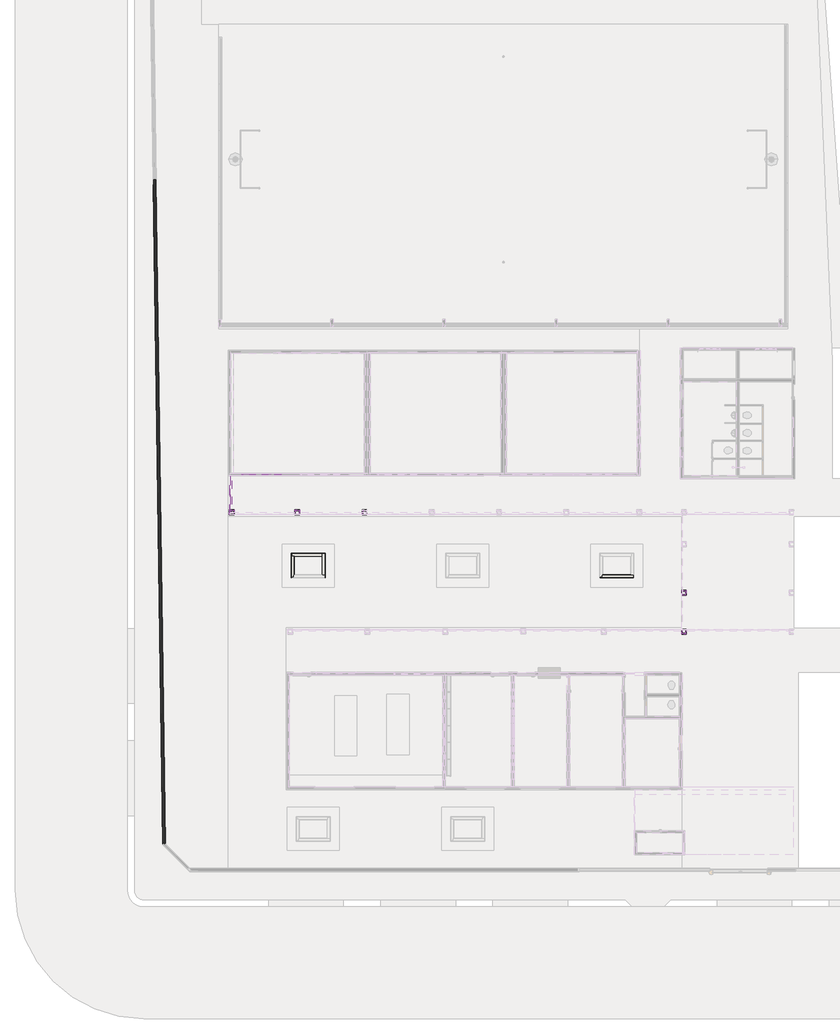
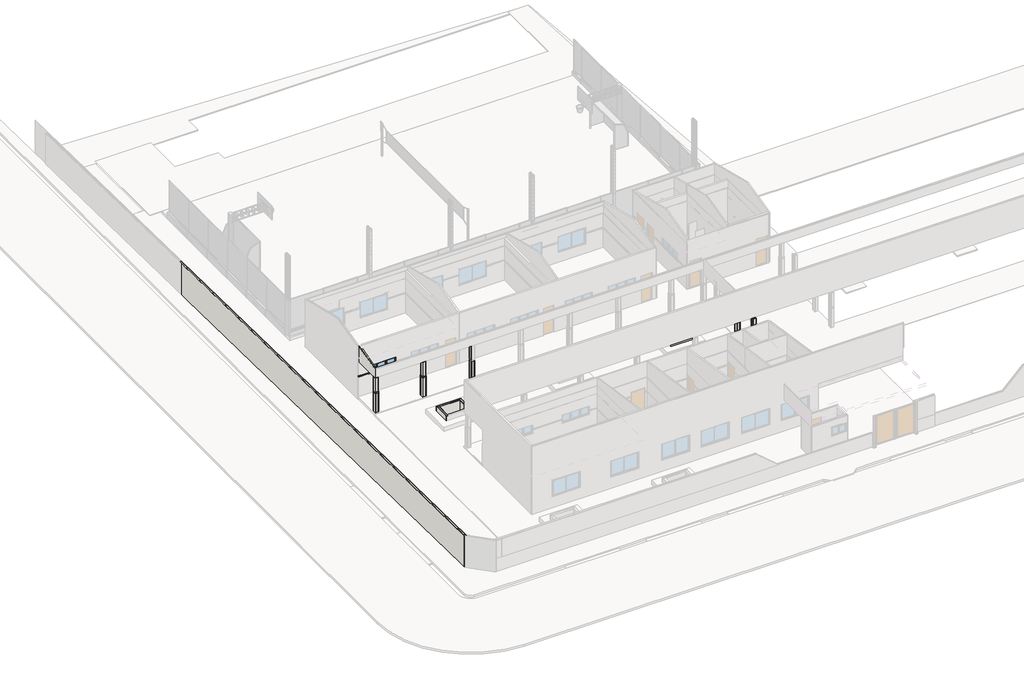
# One storey, part 6 of 28: 73 walls, 1 window.
"""IFC4 building model written with IfcOpenShell, lengths in millimetres."""

from ifc_helpers import new_model, si_unit, frame, origin, origin_with_axes, place, context, project, spatial, polyline, outline, extrude, faceted_brep, transform, mapped, element, save
from components import window_2x60x220_bcaba8dd

model = new_model("IFC4")

# Units and contexts
model_context = context("Model", 3, world=origin())
ifc_project = project(units=[si_unit("LENGTHUNIT", "METRE", prefix="MILLI")], contexts=[model_context])

# Site, building, storey
site = spatial("IfcSite", under=ifc_project)
building = spatial("IfcBuilding", under=site)
storey = spatial("IfcBuildingStorey", under=building, Name="Térreo", Elevation=0.0)

# Walls
placement = place(None, origin())
element("IfcWall", 1, ObjectType="FDE_S712_AlvenariadeTijoloCerâmico/Baiano_Alvenaria_9cm - Existente", at=placement, inside=storey, context=model_context, shape_type="Brep", body=[
    faceted_brep([(-61645.7047703, 1496.9920824, 0.0), (-62149.3783119, 37041.0478628, 0.0), (-62149.3783119, 37041.0478628, 2545.9092161), (-61645.7047703, 1496.9920824, 2545.9092161), (-61737.0076037, 1588.2949157, 0.0), (-61737.0076037, 1588.2949157, 2545.9092161), (-62239.3692773, 37039.7726547, 2545.9092161), (-62239.3692773, 37039.7726547, 0.0), (-61708.9096122, 1560.1969243, 0.0), (-62149.987548, 37041.0392297, 0.0), (-62149.987548, 37041.0392297, 2545.9092161), (-61708.9096122, 1560.1969243, 2545.9092161)], [[[0, 1, 2, 3]], [[4, 5, 6, 7]], [[1, 0, 8, 4, 7, 9]], [[2, 1, 9, 7, 6, 10]], [[3, 2, 10, 6, 5, 11]], [[0, 3, 11, 5, 4, 8]]]),
])
element("IfcWall", 2, ObjectType="FDE_S712_AlvenariadeTijoloCerâmico/Baiano_Alvenaria_9cm - Existente", at=placement, inside=storey, context=model_context, shape_type="SweptSolid", body=[
    extrude(outline(polyline([(-62118.7692456, 37041.4779083), (-61617.6144942, 1468.9018063), (-61645.7047703, 1496.9920824), (-62149.3782952, 37041.0466809), (-62118.7692456, 37041.4779083)])), origin_with_axes(), (0.0, 0.0, 1.0), 2545.9092161),
])
element("IfcWall", 3, ObjectType="Pardes Externas_Pintura Acrílica Branco Neve", at=placement, inside=storey, context=model_context, shape_type="SweptSolid", body=[
    extrude(outline(polyline([(-62235.5440837, 36769.8301548), (-61735.1780809, 1459.1861724), (-61756.4820754, 1480.4901668), (-62256.5419756, 36769.5326062), (-62235.5440837, 36769.8301548)])), origin_with_axes(), (0.0, 0.0, 1.0), 2545.9092161),
])
element("IfcWall", 4, ObjectType="Faixa - Revestimento Cerâmico Verde Folha 10x10cm", at=placement, inside=storey, context=model_context, shape_type="Brep", body=[
    faceted_brep([(-58220.0, 21180.0, 1824.9435125), (-58220.0, 21180.0, 1731.0528047), (-57485.0, 21180.0, 1731.0528047), (-57485.0, 21180.0, 1824.9435125), (-58220.0, 21210.0, 1731.0528047), (-58220.0, 21210.0, 1824.9435125), (-57485.0, 21210.0, 1824.9435125), (-57485.0, 21210.0, 1731.0528047), (-58220.0, 21189.0, 1824.9435125)], [[[0, 1, 2, 3]], [[4, 5, 6, 7]], [[1, 4, 7, 2]], [[5, 8, 0, 3, 6]], [[1, 0, 8, 5, 4]], [[3, 2, 7, 6]]]),
])
element("IfcWall", 5, ObjectType="Pardes Externas_Pintura Acrílica Branco Neve", at=placement, inside=storey, context=model_context, shape_type="Brep", body=[
    faceted_brep([(-33974.4091269, 12950.0, 2900.0), (-33974.4091269, 12950.0, 1794.0), (-33953.4091269, 12950.0, 1794.0), (-33753.4091269, 12950.0, 1794.0), (-33732.4091269, 12950.0, 1794.0), (-33732.4091269, 12950.0, 2900.0), (-33753.4091269, 12950.0, 2900.0), (-33953.4091269, 12950.0, 2900.0), (-33974.4091269, 12971.0, 1794.0), (-33974.4091269, 12971.0, 2530.0), (-33974.4091269, 12971.0, 2900.0), (-33954.4091269, 12971.0, 2900.0), (-33732.4091269, 12971.0, 2900.0), (-33732.4091269, 12971.0, 1794.0)], [[[0, 1, 2, 3, 4, 5, 6, 7]], [[8, 9, 10, 11, 12, 13]], [[4, 3, 2, 1, 8, 13]], [[0, 7, 6, 5, 12, 11, 10]], [[5, 4, 13, 12]], [[0, 10, 9, 8, 1]]]),
])
element("IfcWall", 6, ObjectType="Revestimento Cerâmico 10x10cm", at=placement, inside=storey, context=model_context, shape_type="Brep", body=[
    faceted_brep([(-33983.4091269, 12950.0, 194.0), (-33953.4091269, 12950.0, 194.0), (-33753.4091269, 12950.0, 194.0), (-33723.4091269, 12950.0, 194.0), (-33723.4091269, 12950.0, 1694.0), (-33753.4091269, 12950.0, 1694.0), (-33953.4091269, 12950.0, 1694.0), (-33983.4091269, 12950.0, 1694.0), (-33983.4091269, 12980.0, 194.0), (-33983.4091269, 12980.0, 1694.0), (-33723.4091269, 12980.0, 1694.0), (-33723.4091269, 12980.0, 194.0)], [[[0, 1, 2, 3, 4, 5, 6, 7]], [[8, 9, 10, 11]], [[3, 2, 1, 0, 8, 11]], [[7, 6, 5, 4, 10, 9]], [[0, 7, 9, 8]], [[4, 3, 11, 10]]]),
])
element("IfcWall", 7, ObjectType="Revestimento Cerâmico 10x10cm", at=placement, inside=storey, context=model_context, shape_type="Brep", body=[
    faceted_brep([(-33953.4091269, 12720.0, 194.0), (-33953.4091269, 12750.0, 194.0), (-33953.4091269, 12950.0, 194.0), (-33953.4091269, 12950.0, 1694.0), (-33953.4091269, 12750.0, 1694.0), (-33953.4091269, 12720.0, 1694.0), (-33983.4091269, 12720.0, 194.0), (-33983.4091269, 12720.0, 1694.0), (-33983.4091269, 12950.0, 1694.0), (-33983.4091269, 12950.0, 194.0)], [[[0, 1, 2, 3, 4, 5]], [[6, 7, 8, 9]], [[2, 1, 0, 6, 9]], [[5, 4, 3, 8, 7]], [[3, 2, 9, 8]], [[0, 5, 7, 6]]]),
])
element("IfcWall", 8, ObjectType="Revestimento Cerâmico 10x10cm", at=placement, inside=storey, context=model_context, shape_type="Brep", body=[
    faceted_brep([(-33753.4091269, 12950.0, 194.0), (-33753.4091269, 12750.0, 194.0), (-33753.4091269, 12720.0, 194.0), (-33753.4091269, 12720.0, 1694.0), (-33753.4091269, 12750.0, 1694.0), (-33753.4091269, 12950.0, 1694.0), (-33723.4091269, 12950.0, 194.0), (-33723.4091269, 12950.0, 1694.0), (-33723.4091269, 12720.0, 1694.0), (-33723.4091269, 12720.0, 194.0)], [[[0, 1, 2, 3, 4, 5]], [[6, 7, 8, 9]], [[2, 1, 0, 6, 9]], [[5, 4, 3, 8, 7]], [[0, 5, 7, 6]], [[3, 2, 9, 8]]]),
])
element("IfcWall", 9, ObjectType="Revestimento Cerâmico 10x10cm", at=placement, inside=storey, context=model_context, shape_type="SweptSolid", body=[
    extrude(outline(polyline([(-33753.4091269, 12720.0), (-33953.4091269, 12720.0), (-33953.4091269, 12750.0), (-33753.4091269, 12750.0), (-33753.4091269, 12720.0)])), frame((0.0, 0.0, 194.0), z_axis=(0.0, 0.0, 1.0), x_axis=(1.0, 0.0, 0.0)), (0.0, 0.0, 1.0), 1500.0),
])
element("IfcWall", 10, ObjectType="Faixa - Revestimento Cerâmico Verde Folha 10x10cm", at=placement, inside=storey, context=model_context, shape_type="Brep", body=[
    faceted_brep([(-33983.4091269, 12950.0, 1694.0), (-33953.4091269, 12950.0, 1694.0), (-33753.4091269, 12950.0, 1694.0), (-33723.4091269, 12950.0, 1694.0), (-33723.4091269, 12950.0, 1794.0), (-33753.4091269, 12950.0, 1794.0), (-33953.4091269, 12950.0, 1794.0), (-33983.4091269, 12950.0, 1794.0), (-33983.4091269, 12980.0, 1694.0), (-33983.4091269, 12980.0, 1794.0), (-33723.4091269, 12980.0, 1794.0), (-33723.4091269, 12980.0, 1694.0)], [[[0, 1, 2, 3, 4, 5, 6, 7]], [[8, 9, 10, 11]], [[3, 2, 1, 0, 8, 11]], [[7, 6, 5, 4, 10, 9]], [[4, 3, 11, 10]], [[0, 7, 9, 8]]]),
])
element("IfcWall", 11, ObjectType="Faixa - Revestimento Cerâmico Verde Folha 10x10cm", at=placement, inside=storey, context=model_context, shape_type="Brep", body=[
    faceted_brep([(-33753.4091269, 12950.0, 1694.0), (-33753.4091269, 12750.0, 1694.0), (-33753.4091269, 12720.0, 1694.0), (-33753.4091269, 12720.0, 1794.0), (-33753.4091269, 12750.0, 1794.0), (-33753.4091269, 12950.0, 1794.0), (-33723.4091269, 12950.0, 1694.0), (-33723.4091269, 12950.0, 1794.0), (-33723.4091269, 12720.0, 1794.0), (-33723.4091269, 12720.0, 1694.0)], [[[0, 1, 2, 3, 4, 5]], [[6, 7, 8, 9]], [[2, 1, 0, 6, 9]], [[5, 4, 3, 8, 7]], [[0, 5, 7, 6]], [[3, 2, 9, 8]]]),
])
element("IfcWall", 12, ObjectType="Faixa - Revestimento Cerâmico Verde Folha 10x10cm", at=placement, inside=storey, context=model_context, shape_type="Brep", body=[
    faceted_brep([(-33983.4091269, 12720.0, 1694.0), (-33753.4091269, 12720.0, 1694.0), (-33753.4091269, 12720.0, 1794.0), (-33983.4091269, 12720.0, 1794.0), (-33983.4091269, 12750.0, 1694.0), (-33983.4091269, 12750.0, 1794.0), (-33953.4091269, 12750.0, 1794.0), (-33753.4091269, 12750.0, 1794.0), (-33753.4091269, 12750.0, 1694.0), (-33953.4091269, 12750.0, 1694.0), (-33753.4091269, 12729.0, 1794.0)], [[[0, 1, 2, 3]], [[4, 5, 6, 7, 8, 9]], [[1, 0, 4, 9, 8]], [[3, 2, 10, 7, 6, 5]], [[2, 1, 8, 7, 10]], [[0, 3, 5, 4]]]),
])
element("IfcWall", 13, ObjectType="Faixa - Revestimento Cerâmico Verde Folha 10x10cm", at=placement, inside=storey, context=model_context, shape_type="SweptSolid", body=[
    extrude(outline(polyline([(-33983.4091269, 12750.0), (-33983.4091269, 12950.0), (-33953.4091269, 12950.0), (-33953.4091269, 12750.0), (-33983.4091269, 12750.0)])), frame((0.0, 0.0, 1694.0), z_axis=(0.0, 0.0, 1.0), x_axis=(1.0, 0.0, 0.0)), (0.0, 0.0, 1.0), 100.0),
])
element("IfcWall", 14, ObjectType="Pardes Externas_Pintura Acrílica Branco Neve", at=placement, inside=storey, context=model_context, shape_type="SweptSolid", body=[
    extrude(outline(polyline([(-33753.4091269, 12729.0), (-33953.4091269, 12729.0), (-33953.4091269, 12750.0), (-33753.4091269, 12750.0), (-33753.4091269, 12729.0)])), frame((0.0, 0.0, 1794.0), z_axis=(0.0, 0.0, 1.0), x_axis=(1.0, 0.0, 0.0)), (0.0, 0.0, 1.0), 1106.0),
])
element("IfcWall", 15, ObjectType="Pardes Externas_Pintura Acrílica Branco Neve", at=placement, inside=storey, context=model_context, shape_type="Brep", body=[
    faceted_brep([(-33753.4091269, 12950.0, 1794.0), (-33753.4091269, 12750.0, 1794.0), (-33753.4091269, 12729.0, 1794.0), (-33753.4091269, 12729.0, 2900.0), (-33753.4091269, 12750.0, 2900.0), (-33753.4091269, 12950.0, 2900.0), (-33732.4091269, 12950.0, 1794.0), (-33732.4091269, 12950.0, 2900.0), (-33732.4091269, 12729.0, 2900.0), (-33732.4091269, 12729.0, 1794.0)], [[[0, 1, 2, 3, 4, 5]], [[6, 7, 8, 9]], [[2, 1, 0, 6, 9]], [[5, 4, 3, 8, 7]], [[3, 2, 9, 8]], [[0, 5, 7, 6]]]),
])
element("IfcWall", 16, ObjectType="Pardes Externas_Pintura Acrílica Branco Neve", at=placement, inside=storey, context=model_context, shape_type="Brep", body=[
    faceted_brep([(-33974.4091269, 12950.0, 2900.0), (-33974.4091269, 12950.0, 1794.0), (-33974.4091269, 12729.0, 1794.0), (-33974.4091269, 12729.0, 2900.0), (-33953.4091269, 12950.0, 1794.0), (-33953.4091269, 12950.0, 2900.0), (-33953.4091269, 12750.0, 2900.0), (-33953.4091269, 12729.0, 2900.0), (-33953.4091269, 12729.0, 1794.0), (-33953.4091269, 12750.0, 1794.0)], [[[0, 1, 2, 3]], [[4, 5, 6, 7, 8, 9]], [[2, 1, 4, 9, 8]], [[0, 3, 7, 6, 5]], [[3, 2, 8, 7]], [[0, 5, 4, 1]]]),
])
element("IfcWall", 17, ObjectType="Pardes Externas_Pintura Acrílica Branco Neve", at=placement, inside=storey, context=model_context, shape_type="Brep", body=[
    faceted_brep([(-51071.0, 19330.0, 1794.0), (-51050.0, 19330.0, 1794.0), (-50850.0, 19330.0, 1794.0), (-50829.0, 19330.0, 1794.0), (-50829.0, 19330.0, 2900.0), (-50850.0, 19330.0, 2900.0), (-51050.0, 19330.0, 2900.0), (-51071.0, 19330.0, 2900.0), (-51071.0, 19351.0, 1794.0), (-51071.0, 19351.0, 2900.0), (-50829.0, 19351.0, 2900.0), (-50829.0, 19351.0, 1794.0)], [[[0, 1, 2, 3, 4, 5, 6, 7]], [[8, 9, 10, 11]], [[3, 2, 1, 0, 8, 11]], [[7, 6, 5, 4, 10, 9]], [[0, 7, 9, 8]], [[4, 3, 11, 10]]]),
])
element("IfcWall", 18, ObjectType="Revestimento Cerâmico 10x10cm", at=placement, inside=storey, context=model_context, shape_type="Brep", body=[
    faceted_brep([(-51080.0, 19330.0, 194.0), (-51050.0, 19330.0, 194.0), (-50850.0, 19330.0, 194.0), (-50820.0, 19330.0, 194.0), (-50820.0, 19330.0, 1694.0), (-50850.0, 19330.0, 1694.0), (-51050.0, 19330.0, 1694.0), (-51080.0, 19330.0, 1694.0), (-51080.0, 19360.0, 194.0), (-51080.0, 19360.0, 1694.0), (-50820.0, 19360.0, 1694.0), (-50820.0, 19360.0, 194.0)], [[[0, 1, 2, 3, 4, 5, 6, 7]], [[8, 9, 10, 11]], [[3, 2, 1, 0, 8, 11]], [[7, 6, 5, 4, 10, 9]], [[0, 7, 9, 8]], [[4, 3, 11, 10]]]),
])
element("IfcWall", 19, ObjectType="Revestimento Cerâmico 10x10cm", at=placement, inside=storey, context=model_context, shape_type="Brep", body=[
    faceted_brep([(-51050.0, 19100.0, 194.0), (-51050.0, 19130.0, 194.0), (-51050.0, 19330.0, 194.0), (-51050.0, 19330.0, 1694.0), (-51050.0, 19130.0, 1694.0), (-51050.0, 19100.0, 1694.0), (-51080.0, 19100.0, 194.0), (-51080.0, 19100.0, 1694.0), (-51080.0, 19330.0, 1694.0), (-51080.0, 19330.0, 194.0)], [[[0, 1, 2, 3, 4, 5]], [[6, 7, 8, 9]], [[2, 1, 0, 6, 9]], [[5, 4, 3, 8, 7]], [[3, 2, 9, 8]], [[0, 5, 7, 6]]]),
])
element("IfcWall", 20, ObjectType="Revestimento Cerâmico 10x10cm", at=placement, inside=storey, context=model_context, shape_type="Brep", body=[
    faceted_brep([(-50850.0, 19330.0, 194.0), (-50850.0, 19130.0, 194.0), (-50850.0, 19100.0, 194.0), (-50850.0, 19100.0, 1694.0), (-50850.0, 19130.0, 1694.0), (-50850.0, 19330.0, 1694.0), (-50820.0, 19330.0, 194.0), (-50820.0, 19330.0, 1694.0), (-50820.0, 19100.0, 1694.0), (-50820.0, 19100.0, 194.0)], [[[0, 1, 2, 3, 4, 5]], [[6, 7, 8, 9]], [[2, 1, 0, 6, 9]], [[5, 4, 3, 8, 7]], [[0, 5, 7, 6]], [[3, 2, 9, 8]]]),
])
element("IfcWall", 21, ObjectType="Revestimento Cerâmico 10x10cm", at=placement, inside=storey, context=model_context, shape_type="SweptSolid", body=[
    extrude(outline(polyline([(-50850.0, 19100.0), (-51050.0, 19100.0), (-51050.0, 19130.0), (-50850.0, 19130.0), (-50850.0, 19100.0)])), frame((0.0, 0.0, 194.0), z_axis=(0.0, 0.0, 1.0), x_axis=(1.0, 0.0, 0.0)), (0.0, 0.0, 1.0), 1500.0),
])
element("IfcWall", 22, ObjectType="Faixa - Revestimento Cerâmico Verde Folha 10x10cm", at=placement, inside=storey, context=model_context, shape_type="SweptSolid", body=[
    extrude(outline(polyline([(-51080.0, 19130.0), (-51080.0, 19330.0), (-51050.0, 19330.0), (-51050.0, 19130.0), (-51080.0, 19130.0)])), frame((0.0, 0.0, 1694.0), z_axis=(0.0, 0.0, 1.0), x_axis=(1.0, 0.0, 0.0)), (0.0, 0.0, 1.0), 100.0),
])
element("IfcWall", 23, ObjectType="Pardes Externas_Pintura Acrílica Branco Neve", at=placement, inside=storey, context=model_context, shape_type="Brep", body=[
    faceted_brep([(-51071.0, 19330.0, 1794.0), (-51071.0, 19109.0, 1794.0), (-51071.0, 19109.0, 2900.0), (-51071.0, 19330.0, 2900.0), (-51050.0, 19330.0, 1794.0), (-51050.0, 19330.0, 2900.0), (-51050.0, 19130.0, 2900.0), (-51050.0, 19109.0, 2900.0), (-51050.0, 19109.0, 1794.0), (-51050.0, 19130.0, 1794.0)], [[[0, 1, 2, 3]], [[4, 5, 6, 7, 8, 9]], [[1, 0, 4, 9, 8]], [[3, 2, 7, 6, 5]], [[2, 1, 8, 7]], [[0, 3, 5, 4]]]),
])
element("IfcWall", 24, ObjectType="Pardes Externas_Pintura Acrílica Branco Neve", at=placement, inside=storey, context=model_context, shape_type="Brep", body=[
    faceted_brep([(-54671.0, 19330.0, 1794.0), (-54650.0, 19330.0, 1794.0), (-54450.0, 19330.0, 1794.0), (-54429.0, 19330.0, 1794.0), (-54429.0, 19330.0, 2900.0), (-54450.0, 19330.0, 2900.0), (-54650.0, 19330.0, 2900.0), (-54671.0, 19330.0, 2900.0), (-54671.0, 19351.0, 1794.0), (-54671.0, 19351.0, 2900.0), (-54429.0, 19351.0, 2900.0), (-54429.0, 19351.0, 1794.0)], [[[0, 1, 2, 3, 4, 5, 6, 7]], [[8, 9, 10, 11]], [[3, 2, 1, 0, 8, 11]], [[7, 6, 5, 4, 10, 9]], [[0, 7, 9, 8]], [[4, 3, 11, 10]]]),
])
element("IfcWall", 25, ObjectType="Revestimento Cerâmico 10x10cm", at=placement, inside=storey, context=model_context, shape_type="Brep", body=[
    faceted_brep([(-54680.0, 19330.0, 194.0), (-54650.0, 19330.0, 194.0), (-54450.0, 19330.0, 194.0), (-54420.0, 19330.0, 194.0), (-54420.0, 19330.0, 1694.0), (-54450.0, 19330.0, 1694.0), (-54650.0, 19330.0, 1694.0), (-54680.0, 19330.0, 1694.0), (-54680.0, 19360.0, 194.0), (-54680.0, 19360.0, 1694.0), (-54420.0, 19360.0, 1694.0), (-54420.0, 19360.0, 194.0)], [[[0, 1, 2, 3, 4, 5, 6, 7]], [[8, 9, 10, 11]], [[3, 2, 1, 0, 8, 11]], [[7, 6, 5, 4, 10, 9]], [[0, 7, 9, 8]], [[4, 3, 11, 10]]]),
])
element("IfcWall", 26, ObjectType="Revestimento Cerâmico 10x10cm", at=placement, inside=storey, context=model_context, shape_type="Brep", body=[
    faceted_brep([(-54650.0, 19100.0, 194.0), (-54650.0, 19130.0, 194.0), (-54650.0, 19330.0, 194.0), (-54650.0, 19330.0, 1694.0), (-54650.0, 19130.0, 1694.0), (-54650.0, 19100.0, 1694.0), (-54680.0, 19100.0, 194.0), (-54680.0, 19100.0, 1694.0), (-54680.0, 19330.0, 1694.0), (-54680.0, 19330.0, 194.0)], [[[0, 1, 2, 3, 4, 5]], [[6, 7, 8, 9]], [[2, 1, 0, 6, 9]], [[5, 4, 3, 8, 7]], [[3, 2, 9, 8]], [[0, 5, 7, 6]]]),
])
element("IfcWall", 27, ObjectType="Revestimento Cerâmico 10x10cm", at=placement, inside=storey, context=model_context, shape_type="Brep", body=[
    faceted_brep([(-54450.0, 19330.0, 194.0), (-54450.0, 19130.0, 194.0), (-54450.0, 19100.0, 194.0), (-54450.0, 19100.0, 1694.0), (-54450.0, 19130.0, 1694.0), (-54450.0, 19330.0, 1694.0), (-54420.0, 19330.0, 194.0), (-54420.0, 19330.0, 1694.0), (-54420.0, 19100.0, 1694.0), (-54420.0, 19100.0, 194.0)], [[[0, 1, 2, 3, 4, 5]], [[6, 7, 8, 9]], [[2, 1, 0, 6, 9]], [[5, 4, 3, 8, 7]], [[0, 5, 7, 6]], [[3, 2, 9, 8]]]),
])
element("IfcWall", 28, ObjectType="Revestimento Cerâmico 10x10cm", at=placement, inside=storey, context=model_context, shape_type="SweptSolid", body=[
    extrude(outline(polyline([(-54450.0, 19100.0), (-54650.0, 19100.0), (-54650.0, 19130.0), (-54450.0, 19130.0), (-54450.0, 19100.0)])), frame((0.0, 0.0, 194.0), z_axis=(0.0, 0.0, 1.0), x_axis=(1.0, 0.0, 0.0)), (0.0, 0.0, 1.0), 1500.0),
])
element("IfcWall", 29, ObjectType="Faixa - Revestimento Cerâmico Verde Folha 10x10cm", at=placement, inside=storey, context=model_context, shape_type="Brep", body=[
    faceted_brep([(-54680.0, 19330.0, 1694.0), (-54650.0, 19330.0, 1694.0), (-54450.0, 19330.0, 1694.0), (-54420.0, 19330.0, 1694.0), (-54420.0, 19330.0, 1794.0), (-54450.0, 19330.0, 1794.0), (-54650.0, 19330.0, 1794.0), (-54680.0, 19330.0, 1794.0), (-54680.0, 19360.0, 1694.0), (-54680.0, 19360.0, 1794.0), (-54420.0, 19360.0, 1794.0), (-54420.0, 19360.0, 1694.0)], [[[0, 1, 2, 3, 4, 5, 6, 7]], [[8, 9, 10, 11]], [[3, 2, 1, 0, 8, 11]], [[7, 6, 5, 4, 10, 9]], [[4, 3, 11, 10]], [[0, 7, 9, 8]]]),
])
element("IfcWall", 30, ObjectType="Faixa - Revestimento Cerâmico Verde Folha 10x10cm", at=placement, inside=storey, context=model_context, shape_type="Brep", body=[
    faceted_brep([(-54450.0, 19330.0, 1694.0), (-54450.0, 19130.0, 1694.0), (-54450.0, 19100.0, 1694.0), (-54450.0, 19100.0, 1794.0), (-54450.0, 19130.0, 1794.0), (-54450.0, 19330.0, 1794.0), (-54420.0, 19330.0, 1694.0), (-54420.0, 19330.0, 1794.0), (-54420.0, 19100.0, 1794.0), (-54420.0, 19100.0, 1694.0)], [[[0, 1, 2, 3, 4, 5]], [[6, 7, 8, 9]], [[2, 1, 0, 6, 9]], [[5, 4, 3, 8, 7]], [[0, 5, 7, 6]], [[3, 2, 9, 8]]]),
])
element("IfcWall", 31, ObjectType="Faixa - Revestimento Cerâmico Verde Folha 10x10cm", at=placement, inside=storey, context=model_context, shape_type="Brep", body=[
    faceted_brep([(-54680.0, 19100.0, 1694.0), (-54450.0, 19100.0, 1694.0), (-54450.0, 19100.0, 1794.0), (-54680.0, 19100.0, 1794.0), (-54680.0, 19130.0, 1694.0), (-54680.0, 19130.0, 1794.0), (-54650.0, 19130.0, 1794.0), (-54450.0, 19130.0, 1794.0), (-54450.0, 19130.0, 1694.0), (-54650.0, 19130.0, 1694.0), (-54450.0, 19109.0, 1794.0)], [[[0, 1, 2, 3]], [[4, 5, 6, 7, 8, 9]], [[1, 0, 4, 9, 8]], [[3, 2, 10, 7, 6, 5]], [[2, 1, 8, 7, 10]], [[0, 3, 5, 4]]]),
])
element("IfcWall", 32, ObjectType="Faixa - Revestimento Cerâmico Verde Folha 10x10cm", at=placement, inside=storey, context=model_context, shape_type="SweptSolid", body=[
    extrude(outline(polyline([(-54680.0, 19130.0), (-54680.0, 19330.0), (-54650.0, 19330.0), (-54650.0, 19130.0), (-54680.0, 19130.0)])), frame((0.0, 0.0, 1694.0), z_axis=(0.0, 0.0, 1.0), x_axis=(1.0, 0.0, 0.0)), (0.0, 0.0, 1.0), 100.0),
])
element("IfcWall", 33, ObjectType="Pardes Externas_Pintura Acrílica Branco Neve", at=placement, inside=storey, context=model_context, shape_type="SweptSolid", body=[
    extrude(outline(polyline([(-54450.0, 19109.0), (-54650.0, 19109.0), (-54650.0, 19130.0), (-54450.0, 19130.0), (-54450.0, 19109.0)])), frame((0.0, 0.0, 1794.0), z_axis=(0.0, 0.0, 1.0), x_axis=(1.0, 0.0, 0.0)), (0.0, 0.0, 1.0), 1106.0),
])
element("IfcWall", 34, ObjectType="Pardes Externas_Pintura Acrílica Branco Neve", at=placement, inside=storey, context=model_context, shape_type="Brep", body=[
    faceted_brep([(-54450.0, 19330.0, 1794.0), (-54450.0, 19130.0, 1794.0), (-54450.0, 19109.0, 1794.0), (-54450.0, 19109.0, 2900.0), (-54450.0, 19130.0, 2900.0), (-54450.0, 19330.0, 2900.0), (-54429.0, 19330.0, 1794.0), (-54429.0, 19330.0, 2900.0), (-54429.0, 19109.0, 2900.0), (-54429.0, 19109.0, 1794.0)], [[[0, 1, 2, 3, 4, 5]], [[6, 7, 8, 9]], [[2, 1, 0, 6, 9]], [[5, 4, 3, 8, 7]], [[3, 2, 9, 8]], [[0, 5, 7, 6]]]),
])
element("IfcWall", 35, ObjectType="Pardes Externas_Pintura Acrílica Branco Neve", at=placement, inside=storey, context=model_context, shape_type="Brep", body=[
    faceted_brep([(-54671.0, 19330.0, 1794.0), (-54671.0, 19109.0, 1794.0), (-54671.0, 19109.0, 2900.0), (-54671.0, 19330.0, 2900.0), (-54650.0, 19330.0, 1794.0), (-54650.0, 19330.0, 2900.0), (-54650.0, 19130.0, 2900.0), (-54650.0, 19109.0, 2900.0), (-54650.0, 19109.0, 1794.0), (-54650.0, 19130.0, 1794.0)], [[[0, 1, 2, 3]], [[4, 5, 6, 7, 8, 9]], [[1, 0, 4, 9, 8]], [[3, 2, 7, 6, 5]], [[2, 1, 8, 7]], [[0, 3, 5, 4]]]),
])
element("IfcWall", 36, ObjectType="Pardes Externas_Pintura Acrílica Branco Neve", at=placement, inside=storey, context=model_context, shape_type="Brep", body=[
    faceted_brep([(-58171.0, 19330.0, 1794.0), (-58150.0, 19330.0, 1794.0), (-57950.0, 19330.0, 1794.0), (-57929.0, 19330.0, 1794.0), (-57929.0, 19330.0, 2900.0), (-57950.0, 19330.0, 2900.0), (-58150.0, 19330.0, 2900.0), (-58171.0, 19330.0, 2900.0), (-58171.0, 19351.0, 1794.0), (-58171.0, 19351.0, 2900.0), (-57929.0, 19351.0, 2900.0), (-57929.0, 19351.0, 1794.0)], [[[0, 1, 2, 3, 4, 5, 6, 7]], [[8, 9, 10, 11]], [[3, 2, 1, 0, 8, 11]], [[7, 6, 5, 4, 10, 9]], [[0, 7, 9, 8]], [[4, 3, 11, 10]]]),
])
element("IfcWall", 37, ObjectType="Revestimento Cerâmico 10x10cm", at=placement, inside=storey, context=model_context, shape_type="Brep", body=[
    faceted_brep([(-58180.0, 19330.0, 194.0), (-58150.0, 19330.0, 194.0), (-57950.0, 19330.0, 194.0), (-57920.0, 19330.0, 194.0), (-57920.0, 19330.0, 1694.0), (-57950.0, 19330.0, 1694.0), (-58150.0, 19330.0, 1694.0), (-58180.0, 19330.0, 1694.0), (-58180.0, 19360.0, 194.0), (-58180.0, 19360.0, 1694.0), (-57920.0, 19360.0, 1694.0), (-57920.0, 19360.0, 194.0)], [[[0, 1, 2, 3, 4, 5, 6, 7]], [[8, 9, 10, 11]], [[3, 2, 1, 0, 8, 11]], [[7, 6, 5, 4, 10, 9]], [[0, 7, 9, 8]], [[4, 3, 11, 10]]]),
])
element("IfcWall", 38, ObjectType="Revestimento Cerâmico 10x10cm", at=placement, inside=storey, context=model_context, shape_type="Brep", body=[
    faceted_brep([(-58150.0, 19100.0, 194.0), (-58150.0, 19130.0, 194.0), (-58150.0, 19330.0, 194.0), (-58150.0, 19330.0, 1694.0), (-58150.0, 19130.0, 1694.0), (-58150.0, 19100.0, 1694.0), (-58180.0, 19100.0, 194.0), (-58180.0, 19100.0, 1694.0), (-58180.0, 19330.0, 1694.0), (-58180.0, 19330.0, 194.0)], [[[0, 1, 2, 3, 4, 5]], [[6, 7, 8, 9]], [[2, 1, 0, 6, 9]], [[5, 4, 3, 8, 7]], [[3, 2, 9, 8]], [[0, 5, 7, 6]]]),
])
element("IfcWall", 39, ObjectType="Revestimento Cerâmico 10x10cm", at=placement, inside=storey, context=model_context, shape_type="Brep", body=[
    faceted_brep([(-57950.0, 19330.0, 194.0), (-57950.0, 19130.0, 194.0), (-57950.0, 19100.0, 194.0), (-57950.0, 19100.0, 1694.0), (-57950.0, 19130.0, 1694.0), (-57950.0, 19330.0, 1694.0), (-57920.0, 19330.0, 194.0), (-57920.0, 19330.0, 1694.0), (-57920.0, 19100.0, 1694.0), (-57920.0, 19100.0, 194.0)], [[[0, 1, 2, 3, 4, 5]], [[6, 7, 8, 9]], [[2, 1, 0, 6, 9]], [[5, 4, 3, 8, 7]], [[0, 5, 7, 6]], [[3, 2, 9, 8]]]),
])
element("IfcWall", 40, ObjectType="Revestimento Cerâmico 10x10cm", at=placement, inside=storey, context=model_context, shape_type="SweptSolid", body=[
    extrude(outline(polyline([(-57950.0, 19100.0), (-58150.0, 19100.0), (-58150.0, 19130.0), (-57950.0, 19130.0), (-57950.0, 19100.0)])), frame((0.0, 0.0, 194.0), z_axis=(0.0, 0.0, 1.0), x_axis=(1.0, 0.0, 0.0)), (0.0, 0.0, 1.0), 1500.0),
])
element("IfcWall", 41, ObjectType="Faixa - Revestimento Cerâmico Verde Folha 10x10cm", at=placement, inside=storey, context=model_context, shape_type="Brep", body=[
    faceted_brep([(-58180.0, 19330.0, 1694.0), (-58150.0, 19330.0, 1694.0), (-57950.0, 19330.0, 1694.0), (-57920.0, 19330.0, 1694.0), (-57920.0, 19330.0, 1794.0), (-57950.0, 19330.0, 1794.0), (-58150.0, 19330.0, 1794.0), (-58180.0, 19330.0, 1794.0), (-58180.0, 19360.0, 1694.0), (-58180.0, 19360.0, 1794.0), (-57920.0, 19360.0, 1794.0), (-57920.0, 19360.0, 1694.0)], [[[0, 1, 2, 3, 4, 5, 6, 7]], [[8, 9, 10, 11]], [[3, 2, 1, 0, 8, 11]], [[7, 6, 5, 4, 10, 9]], [[4, 3, 11, 10]], [[0, 7, 9, 8]]]),
])
element("IfcWall", 42, ObjectType="Faixa - Revestimento Cerâmico Verde Folha 10x10cm", at=placement, inside=storey, context=model_context, shape_type="Brep", body=[
    faceted_brep([(-57950.0, 19330.0, 1694.0), (-57950.0, 19130.0, 1694.0), (-57950.0, 19100.0, 1694.0), (-57950.0, 19100.0, 1794.0), (-57950.0, 19130.0, 1794.0), (-57950.0, 19330.0, 1794.0), (-57920.0, 19330.0, 1694.0), (-57920.0, 19330.0, 1794.0), (-57920.0, 19100.0, 1794.0), (-57920.0, 19100.0, 1694.0)], [[[0, 1, 2, 3, 4, 5]], [[6, 7, 8, 9]], [[2, 1, 0, 6, 9]], [[5, 4, 3, 8, 7]], [[0, 5, 7, 6]], [[3, 2, 9, 8]]]),
])
element("IfcWall", 43, ObjectType="Faixa - Revestimento Cerâmico Verde Folha 10x10cm", at=placement, inside=storey, context=model_context, shape_type="Brep", body=[
    faceted_brep([(-58180.0, 19100.0, 1694.0), (-57950.0, 19100.0, 1694.0), (-57950.0, 19100.0, 1794.0), (-58180.0, 19100.0, 1794.0), (-58180.0, 19130.0, 1694.0), (-58180.0, 19130.0, 1794.0), (-58150.0, 19130.0, 1794.0), (-57950.0, 19130.0, 1794.0), (-57950.0, 19130.0, 1694.0), (-58150.0, 19130.0, 1694.0), (-57950.0, 19109.0, 1794.0)], [[[0, 1, 2, 3]], [[4, 5, 6, 7, 8, 9]], [[1, 0, 4, 9, 8]], [[3, 2, 10, 7, 6, 5]], [[2, 1, 8, 7, 10]], [[0, 3, 5, 4]]]),
])
element("IfcWall", 44, ObjectType="Faixa - Revestimento Cerâmico Verde Folha 10x10cm", at=placement, inside=storey, context=model_context, shape_type="SweptSolid", body=[
    extrude(outline(polyline([(-58180.0, 19130.0), (-58180.0, 19330.0), (-58150.0, 19330.0), (-58150.0, 19130.0), (-58180.0, 19130.0)])), frame((0.0, 0.0, 1694.0), z_axis=(0.0, 0.0, 1.0), x_axis=(1.0, 0.0, 0.0)), (0.0, 0.0, 1.0), 100.0),
])
element("IfcWall", 45, ObjectType="Pardes Externas_Pintura Acrílica Branco Neve", at=placement, inside=storey, context=model_context, shape_type="SweptSolid", body=[
    extrude(outline(polyline([(-57950.0, 19109.0), (-58150.0, 19109.0), (-58150.0, 19130.0), (-57950.0, 19130.0), (-57950.0, 19109.0)])), frame((0.0, 0.0, 1794.0), z_axis=(0.0, 0.0, 1.0), x_axis=(1.0, 0.0, 0.0)), (0.0, 0.0, 1.0), 1106.0),
])
element("IfcWall", 46, ObjectType="Pardes Externas_Pintura Acrílica Branco Neve", at=placement, inside=storey, context=model_context, shape_type="Brep", body=[
    faceted_brep([(-57950.0, 19330.0, 1794.0), (-57950.0, 19130.0, 1794.0), (-57950.0, 19109.0, 1794.0), (-57950.0, 19109.0, 2900.0), (-57950.0, 19130.0, 2900.0), (-57950.0, 19330.0, 2900.0), (-57929.0, 19330.0, 1794.0), (-57929.0, 19330.0, 2900.0), (-57929.0, 19109.0, 2900.0), (-57929.0, 19109.0, 1794.0)], [[[0, 1, 2, 3, 4, 5]], [[6, 7, 8, 9]], [[2, 1, 0, 6, 9]], [[5, 4, 3, 8, 7]], [[3, 2, 9, 8]], [[0, 5, 7, 6]]]),
])
element("IfcWall", 47, ObjectType="Pardes Externas_Pintura Acrílica Branco Neve", at=placement, inside=storey, context=model_context, shape_type="Brep", body=[
    faceted_brep([(-58171.0, 19330.0, 1794.0), (-58171.0, 19109.0, 1794.0), (-58171.0, 19109.0, 2900.0), (-58171.0, 19330.0, 2900.0), (-58150.0, 19330.0, 1794.0), (-58150.0, 19330.0, 2900.0), (-58150.0, 19130.0, 2900.0), (-58150.0, 19109.0, 2900.0), (-58150.0, 19109.0, 1794.0), (-58150.0, 19130.0, 1794.0)], [[[0, 1, 2, 3]], [[4, 5, 6, 7, 8, 9]], [[1, 0, 4, 9, 8]], [[3, 2, 7, 6, 5]], [[2, 1, 8, 7]], [[0, 3, 5, 4]]]),
])
element("IfcWall", 48, ObjectType="FDE_S713_AlvenariadeTijoloLaminadoaVista_Alvenaria_1/2TijoloAlternado_11,5cm", at=placement, inside=storey, context=model_context, shape_type="Brep", body=[
    faceted_brep([(-54839.5140751, 16895.1451949, 100.0), (-54839.5140751, 15752.1451949, 100.0), (-54839.5140751, 15752.1451949, 800.0), (-54839.5140751, 16895.1451949, 800.0), (-54839.5140751, 16895.1451949, 179.0468845), (-54724.5140751, 16895.1451949, 100.0), (-54724.5140751, 16895.1451949, 800.0), (-54724.5140751, 15867.1451949, 800.0), (-54724.5140751, 15752.1451949, 800.0), (-54724.5140751, 15752.1451949, 100.0)], [[[0, 1, 2, 3, 4]], [[5, 6, 7, 8, 9]], [[1, 0, 5, 9]], [[3, 2, 8, 7, 6]], [[2, 1, 9, 8]], [[0, 4, 3, 6, 5]]]),
])
element("IfcWall", 49, ObjectType="FDE_S713_AlvenariadeTijoloLaminadoaVista_Alvenaria_1/2TijoloAlternado_11,5cm", at=placement, inside=storey, context=model_context, shape_type="Brep", body=[
    faceted_brep([(-53081.5140751, 15867.1451949, 100.0), (-53081.5140751, 17010.1451949, 100.0), (-53081.5140751, 17010.1451949, 800.0), (-53081.5140751, 15867.1451949, 800.0), (-53196.5140751, 15867.1451949, 100.0), (-53196.5140751, 15867.1451949, 800.0), (-53196.5140751, 16895.1451949, 800.0), (-53196.5140751, 17010.1451949, 800.0), (-53196.5140751, 17010.1451949, 179.0468845), (-53196.5140751, 17010.1451949, 100.0)], [[[0, 1, 2, 3]], [[4, 5, 6, 7, 8, 9]], [[1, 0, 4, 9]], [[3, 2, 7, 6, 5]], [[2, 1, 9, 8, 7]], [[0, 3, 5, 4]]]),
])
element("IfcWall", 50, ObjectType="FDE_S713_AlvenariadeTijoloLaminadoaVista_Alvenaria_1/2TijoloAlternado_11,5cm", at=placement, inside=storey, context=model_context, shape_type="Brep", body=[
    faceted_brep([(-53196.5140751, 17010.1451949, 179.0468845), (-54839.5140751, 17010.1451949, 179.0468845), (-54839.5140751, 17010.1451949, 800.0), (-53196.5140751, 17010.1451949, 800.0), (-53196.5140751, 16895.1451949, 179.0468845), (-53196.5140751, 16895.1451949, 800.0), (-54724.5140751, 16895.1451949, 800.0), (-54839.5140751, 16895.1451949, 800.0), (-54839.5140751, 16895.1451949, 179.0468845)], [[[0, 1, 2, 3]], [[4, 5, 6, 7, 8]], [[1, 0, 4, 8]], [[3, 2, 7, 6, 5]], [[2, 1, 8, 7]], [[0, 3, 5, 4]]]),
])
element("IfcWall", 51, ObjectType="Pardes Externas_Pintura Acrílica Branco Neve", at=placement, inside=storey, context=model_context, shape_type="Brep", body=[
    faceted_brep([(-54860.5140751, 17010.1451949, 100.0), (-54839.5140751, 17010.1451949, 100.0), (-53081.5140751, 17010.1451949, 100.0), (-53060.5140751, 17010.1451949, 100.0), (-53060.5140751, 17010.1451949, 800.0), (-53081.5140751, 17010.1451949, 800.0), (-54839.5140751, 17010.1451949, 800.0), (-54860.5140751, 17010.1451949, 800.0), (-54860.5140751, 17031.1451949, 100.0), (-54860.5140751, 17031.1451949, 800.0), (-53060.5140751, 17031.1451949, 800.0), (-53060.5140751, 17031.1451949, 100.0)], [[[0, 1, 2, 3, 4, 5, 6, 7]], [[8, 9, 10, 11]], [[3, 2, 1, 0, 8, 11]], [[7, 6, 5, 4, 10, 9]], [[0, 7, 9, 8]], [[4, 3, 11, 10]]]),
])
element("IfcWall", 52, ObjectType="Pardes Externas_Pintura Acrílica Branco Neve", at=placement, inside=storey, context=model_context, shape_type="Brep", body=[
    faceted_brep([(-54839.5140751, 15731.1451949, 100.0), (-54839.5140751, 15752.1451949, 100.0), (-54839.5140751, 17010.1451949, 100.0), (-54839.5140751, 17010.1451949, 800.0), (-54839.5140751, 15752.1451949, 800.0), (-54839.5140751, 15731.1451949, 800.0), (-54860.5140751, 15731.1451949, 100.0), (-54860.5140751, 15731.1451949, 800.0), (-54860.5140751, 17010.1451949, 800.0), (-54860.5140751, 17010.1451949, 100.0)], [[[0, 1, 2, 3, 4, 5]], [[6, 7, 8, 9]], [[2, 1, 0, 6, 9]], [[5, 4, 3, 8, 7]], [[3, 2, 9, 8]], [[0, 5, 7, 6]]]),
])
element("IfcWall", 53, ObjectType="Pardes Externas_Pintura Acrílica Branco Neve", at=placement, inside=storey, context=model_context, shape_type="Brep", body=[
    faceted_brep([(-53081.5140751, 17010.1451949, 100.0), (-53081.5140751, 15752.1451949, 100.0), (-53081.5140751, 15731.1451949, 100.0), (-53081.5140751, 15731.1451949, 800.0), (-53081.5140751, 15752.1451949, 800.0), (-53081.5140751, 17010.1451949, 800.0), (-53060.5140751, 17010.1451949, 100.0), (-53060.5140751, 17010.1451949, 800.0), (-53060.5140751, 15731.1451949, 800.0), (-53060.5140751, 15731.1451949, 100.0)], [[[0, 1, 2, 3, 4, 5]], [[6, 7, 8, 9]], [[2, 1, 0, 6, 9]], [[5, 4, 3, 8, 7]], [[0, 5, 7, 6]], [[3, 2, 9, 8]]]),
])
element("IfcWall", 54, ObjectType="Pardes Externas_Pintura Acrílica Branco Neve", at=placement, inside=storey, context=model_context, shape_type="Brep", body=[
    faceted_brep([(-53196.5140751, 15867.1451949, 0.0), (-53196.5140751, 16895.1451949, 0.0), (-53196.5140751, 16895.1451949, 800.0), (-53196.5140751, 15867.1451949, 800.0), (-53217.5140751, 15867.1451949, 0.0), (-53217.5140751, 15867.1451949, 800.0), (-53217.5140751, 15888.1451949, 800.0), (-53217.5140751, 16874.1451949, 800.0), (-53217.5140751, 16895.1451949, 800.0), (-53217.5140751, 16895.1451949, 0.0), (-53217.5140751, 16874.1451949, 0.0), (-53217.5140751, 15888.1451949, 0.0)], [[[0, 1, 2, 3]], [[4, 5, 6, 7, 8, 9, 10, 11]], [[1, 0, 4, 11, 10, 9]], [[3, 2, 8, 7, 6, 5]], [[2, 1, 9, 8]], [[0, 3, 5, 4]]]),
])
element("IfcWall", 55, ObjectType="Pardes Externas_Pintura Acrílica Branco Neve", at=placement, inside=storey, context=model_context, shape_type="Brep", body=[
    faceted_brep([(-53217.5140751, 16895.1451949, 0.0), (-54724.5140751, 16895.1451949, 0.0), (-54724.5140751, 16895.1451949, 800.0), (-53217.5140751, 16895.1451949, 800.0), (-53217.5140751, 16874.1451949, 0.0), (-53217.5140751, 16874.1451949, 800.0), (-54703.5140751, 16874.1451949, 800.0), (-54724.5140751, 16874.1451949, 800.0), (-54724.5140751, 16874.1451949, 0.0), (-54703.5140751, 16874.1451949, 0.0)], [[[0, 1, 2, 3]], [[4, 5, 6, 7, 8, 9]], [[1, 0, 4, 9, 8]], [[3, 2, 7, 6, 5]], [[0, 3, 5, 4]], [[2, 1, 8, 7]]]),
])
element("IfcWall", 56, ObjectType="Pardes Externas_Pintura Acrílica Branco Neve", at=placement, inside=storey, context=model_context, shape_type="Brep", body=[
    faceted_brep([(-54724.5140751, 16874.1451949, 0.0), (-54724.5140751, 15867.1451949, 0.0), (-54724.5140751, 15867.1451949, 800.0), (-54724.5140751, 16874.1451949, 800.0), (-54703.5140751, 16874.1451949, 0.0), (-54703.5140751, 16874.1451949, 800.0), (-54703.5140751, 15888.1451949, 800.0), (-54703.5140751, 15867.1451949, 800.0), (-54703.5140751, 15867.1451949, 0.0), (-54703.5140751, 15888.1451949, 0.0)], [[[0, 1, 2, 3]], [[4, 5, 6, 7, 8, 9]], [[1, 0, 4, 9, 8]], [[3, 2, 7, 6, 5]], [[0, 3, 5, 4]], [[2, 1, 8, 7]]]),
])
element("IfcWall", 57, ObjectType="FDE_S713_AlvenariadeTijoloLaminadoaVista_Alvenaria_1/2TijoloAlternado_11,5cm", at=placement, inside=storey, context=model_context, shape_type="Brep", body=[
    faceted_brep([(-38214.0, 15752.1451949, 0.0), (-36571.0, 15752.1451949, 0.0), (-36571.0, 15752.1451949, 800.0), (-38214.0, 15752.1451949, 800.0), (-38214.0, 15752.1451949, 100.0), (-38214.0, 15867.1451949, 0.0), (-38214.0, 15867.1451949, 800.0), (-36686.0, 15867.1451949, 800.0), (-36571.0, 15867.1451949, 800.0), (-36571.0, 15867.1451949, 100.0), (-36571.0, 15867.1451949, 0.0)], [[[0, 1, 2, 3, 4]], [[5, 6, 7, 8, 9, 10]], [[1, 0, 5, 10]], [[3, 2, 8, 7, 6]], [[2, 1, 10, 9, 8]], [[0, 4, 3, 6, 5]]]),
])
element("IfcWall", 58, ObjectType="Pardes Externas_Pintura Acrílica Branco Neve", at=placement, inside=storey, context=model_context, shape_type="SweptSolid", body=[
    extrude(outline(polyline([(-38329.0, 15752.1451949), (-36571.0, 15752.1451949), (-36571.0, 15731.1451949), (-38329.0, 15731.1451949), (-38329.0, 15752.1451949)])), frame((0.0, 0.0, 100.0), z_axis=(0.0, 0.0, 1.0), x_axis=(1.0, 0.0, 0.0)), (0.0, 0.0, 1.0), 700.0),
])
element("IfcWall", 59, ObjectType="Pardes Externas_Pintura Acrílica Branco Neve", at=placement, inside=storey, context=model_context, shape_type="SweptSolid", body=[
    extrude(outline(polyline([(-36707.0, 15867.1451949), (-38193.0, 15867.1451949), (-38193.0, 15888.1451949), (-36707.0, 15888.1451949), (-36707.0, 15867.1451949)])), origin_with_axes(), (0.0, 0.0, 1.0), 800.0),
])
element("IfcWall", 60, ObjectType="Pardes Externas_Pintura Acrílica Branco Neve", at=placement, inside=storey, context=model_context, shape_type="Brep", body=[
    faceted_brep([(-33974.4091269, 15020.0, 1794.0), (-33953.4091269, 15020.0, 1794.0), (-33753.4091269, 15020.0, 1794.0), (-33732.4091269, 15020.0, 1794.0), (-33732.4091269, 15020.0, 3021.0849444), (-33753.4091269, 15020.0, 3017.9349444), (-33954.4091269, 15020.0, 2987.7849444), (-33954.4091269, 15020.0, 2900.0), (-33974.4091269, 15020.0, 2900.0), (-33974.4091269, 15041.0, 1794.0), (-33974.4091269, 15041.0, 2900.0), (-33954.4091269, 15041.0, 2900.0), (-33954.4091269, 15041.0, 2987.7849444), (-33732.4091269, 15041.0, 3021.0849444), (-33732.4091269, 15041.0, 1794.0)], [[[0, 1, 2, 3, 4, 5, 6, 7, 8]], [[9, 10, 11, 12, 13, 14]], [[3, 2, 1, 0, 9, 14]], [[0, 8, 10, 9]], [[4, 3, 14, 13]], [[8, 7, 11, 10]], [[11, 7, 6, 12]], [[6, 5, 4, 13, 12]]]),
])
element("IfcWall", 61, ObjectType="Revestimento Cerâmico 10x10cm", at=placement, inside=storey, context=model_context, shape_type="Brep", body=[
    faceted_brep([(-33983.4091269, 15020.0, 194.0), (-33953.4091269, 15020.0, 194.0), (-33753.4091269, 15020.0, 194.0), (-33723.4091269, 15020.0, 194.0), (-33723.4091269, 15020.0, 1694.0), (-33753.4091269, 15020.0, 1694.0), (-33953.4091269, 15020.0, 1694.0), (-33983.4091269, 15020.0, 1694.0), (-33983.4091269, 15050.0, 194.0), (-33983.4091269, 15050.0, 1694.0), (-33723.4091269, 15050.0, 1694.0), (-33723.4091269, 15050.0, 194.0)], [[[0, 1, 2, 3, 4, 5, 6, 7]], [[8, 9, 10, 11]], [[3, 2, 1, 0, 8, 11]], [[7, 6, 5, 4, 10, 9]], [[0, 7, 9, 8]], [[4, 3, 11, 10]]]),
])
element("IfcWall", 62, ObjectType="Revestimento Cerâmico 10x10cm", at=placement, inside=storey, context=model_context, shape_type="Brep", body=[
    faceted_brep([(-33953.4091269, 14790.0, 194.0), (-33953.4091269, 14820.0, 194.0), (-33953.4091269, 15020.0, 194.0), (-33953.4091269, 15020.0, 1694.0), (-33953.4091269, 14820.0, 1694.0), (-33953.4091269, 14790.0, 1694.0), (-33983.4091269, 14790.0, 194.0), (-33983.4091269, 14790.0, 1694.0), (-33983.4091269, 15020.0, 1694.0), (-33983.4091269, 15020.0, 194.0)], [[[0, 1, 2, 3, 4, 5]], [[6, 7, 8, 9]], [[2, 1, 0, 6, 9]], [[5, 4, 3, 8, 7]], [[3, 2, 9, 8]], [[0, 5, 7, 6]]]),
])
element("IfcWall", 63, ObjectType="Revestimento Cerâmico 10x10cm", at=placement, inside=storey, context=model_context, shape_type="Brep", body=[
    faceted_brep([(-33753.4091269, 15020.0, 194.0), (-33753.4091269, 14820.0, 194.0), (-33753.4091269, 14790.0, 194.0), (-33753.4091269, 14790.0, 1694.0), (-33753.4091269, 14820.0, 1694.0), (-33753.4091269, 15020.0, 1694.0), (-33723.4091269, 15020.0, 194.0), (-33723.4091269, 15020.0, 1694.0), (-33723.4091269, 14790.0, 1694.0), (-33723.4091269, 14790.0, 194.0)], [[[0, 1, 2, 3, 4, 5]], [[6, 7, 8, 9]], [[2, 1, 0, 6, 9]], [[5, 4, 3, 8, 7]], [[0, 5, 7, 6]], [[3, 2, 9, 8]]]),
])
element("IfcWall", 64, ObjectType="Revestimento Cerâmico 10x10cm", at=placement, inside=storey, context=model_context, shape_type="SweptSolid", body=[
    extrude(outline(polyline([(-33753.4091269, 14790.0), (-33953.4091269, 14790.0), (-33953.4091269, 14820.0), (-33753.4091269, 14820.0), (-33753.4091269, 14790.0)])), frame((0.0, 0.0, 194.0), z_axis=(0.0, 0.0, 1.0), x_axis=(1.0, 0.0, 0.0)), (0.0, 0.0, 1.0), 1500.0),
])
element("IfcWall", 65, ObjectType="Faixa - Revestimento Cerâmico Verde Folha 10x10cm", at=placement, inside=storey, context=model_context, shape_type="Brep", body=[
    faceted_brep([(-33983.4091269, 15020.0, 1694.0), (-33953.4091269, 15020.0, 1694.0), (-33753.4091269, 15020.0, 1694.0), (-33723.4091269, 15020.0, 1694.0), (-33723.4091269, 15020.0, 1794.0), (-33753.4091269, 15020.0, 1794.0), (-33953.4091269, 15020.0, 1794.0), (-33983.4091269, 15020.0, 1794.0), (-33983.4091269, 15050.0, 1694.0), (-33983.4091269, 15050.0, 1794.0), (-33723.4091269, 15050.0, 1794.0), (-33723.4091269, 15050.0, 1694.0)], [[[0, 1, 2, 3, 4, 5, 6, 7]], [[8, 9, 10, 11]], [[3, 2, 1, 0, 8, 11]], [[7, 6, 5, 4, 10, 9]], [[4, 3, 11, 10]], [[0, 7, 9, 8]]]),
])
element("IfcWall", 66, ObjectType="Faixa - Revestimento Cerâmico Verde Folha 10x10cm", at=placement, inside=storey, context=model_context, shape_type="Brep", body=[
    faceted_brep([(-33753.4091269, 15020.0, 1694.0), (-33753.4091269, 14820.0, 1694.0), (-33753.4091269, 14790.0, 1694.0), (-33753.4091269, 14790.0, 1794.0), (-33753.4091269, 14820.0, 1794.0), (-33753.4091269, 15020.0, 1794.0), (-33723.4091269, 15020.0, 1694.0), (-33723.4091269, 15020.0, 1794.0), (-33723.4091269, 14790.0, 1794.0), (-33723.4091269, 14790.0, 1694.0)], [[[0, 1, 2, 3, 4, 5]], [[6, 7, 8, 9]], [[2, 1, 0, 6, 9]], [[5, 4, 3, 8, 7]], [[0, 5, 7, 6]], [[3, 2, 9, 8]]]),
])
element("IfcWall", 67, ObjectType="Faixa - Revestimento Cerâmico Verde Folha 10x10cm", at=placement, inside=storey, context=model_context, shape_type="Brep", body=[
    faceted_brep([(-33983.4091269, 14790.0, 1694.0), (-33753.4091269, 14790.0, 1694.0), (-33753.4091269, 14790.0, 1794.0), (-33983.4091269, 14790.0, 1794.0), (-33983.4091269, 14820.0, 1694.0), (-33983.4091269, 14820.0, 1794.0), (-33953.4091269, 14820.0, 1794.0), (-33753.4091269, 14820.0, 1794.0), (-33753.4091269, 14820.0, 1694.0), (-33953.4091269, 14820.0, 1694.0), (-33753.4091269, 14799.0, 1794.0)], [[[0, 1, 2, 3]], [[4, 5, 6, 7, 8, 9]], [[1, 0, 4, 9, 8]], [[3, 2, 10, 7, 6, 5]], [[2, 1, 8, 7, 10]], [[0, 3, 5, 4]]]),
])
element("IfcWall", 68, ObjectType="Faixa - Revestimento Cerâmico Verde Folha 10x10cm", at=placement, inside=storey, context=model_context, shape_type="SweptSolid", body=[
    extrude(outline(polyline([(-33983.4091269, 14820.0), (-33983.4091269, 15020.0), (-33953.4091269, 15020.0), (-33953.4091269, 14820.0), (-33983.4091269, 14820.0)])), frame((0.0, 0.0, 1694.0), z_axis=(0.0, 0.0, 1.0), x_axis=(1.0, 0.0, 0.0)), (0.0, 0.0, 1.0), 100.0),
])
element("IfcWall", 69, ObjectType="Pardes Externas_Pintura Acrílica Branco Neve", at=placement, inside=storey, context=model_context, shape_type="SweptSolid", body=[
    extrude(outline(polyline([(1794.0, -33953.4091269), (1794.0, -33753.4091269), (3017.9349444, -33753.4091269), (2987.9349444, -33953.4091269), (1794.0, -33953.4091269)])), frame((0.0, 14799.0, 0.0), z_axis=(0.0, 1.0, 0.0), x_axis=(0.0, 0.0, 1.0)), (0.0, 0.0, 1.0), 21.0),
])
element("IfcWall", 70, ObjectType="Pardes Externas_Pintura Acrílica Branco Neve", at=placement, inside=storey, context=model_context, shape_type="Brep", body=[
    faceted_brep([(-33753.4091269, 15020.0, 1794.0), (-33753.4091269, 14820.0, 1794.0), (-33753.4091269, 14799.0, 1794.0), (-33753.4091269, 14799.0, 3017.9349444), (-33753.4091269, 14820.0, 3017.9349444), (-33753.4091269, 15020.0, 3017.9349444), (-33732.4091269, 15020.0, 1794.0), (-33732.4091269, 15020.0, 3021.0849444), (-33732.4091269, 14799.0, 3021.0849444), (-33732.4091269, 14799.0, 1794.0)], [[[0, 1, 2, 3, 4, 5]], [[6, 7, 8, 9]], [[2, 1, 0, 6, 9]], [[3, 2, 9, 8]], [[0, 5, 7, 6]], [[5, 4, 3, 8, 7]]]),
])
element("IfcWall", 71, ObjectType="Pardes Externas_Pintura Acrílica Branco Neve", at=placement, inside=storey, context=model_context, shape_type="Brep", body=[
    faceted_brep([(-33974.4091269, 15020.0, 1794.0), (-33974.4091269, 14799.0, 1794.0), (-33974.4091269, 14799.0, 2900.0), (-33974.4091269, 15020.0, 2900.0), (-33953.4091269, 15020.0, 1794.0), (-33953.4091269, 15020.0, 2987.9349444), (-33953.4091269, 14820.0, 2987.9349444), (-33953.4091269, 14799.0, 2987.9349444), (-33953.4091269, 14799.0, 1794.0), (-33953.4091269, 14820.0, 1794.0), (-33954.4091269, 14799.0, 2987.7849444), (-33954.4091269, 14799.0, 2900.0), (-33954.4091269, 15020.0, 2900.0), (-33954.4091269, 15020.0, 2987.7849444)], [[[0, 1, 2, 3]], [[4, 5, 6, 7, 8, 9]], [[1, 0, 4, 9, 8]], [[2, 1, 8, 7, 10, 11]], [[0, 3, 12, 13, 5, 4]], [[3, 2, 11, 12]], [[12, 11, 10, 13]], [[10, 7, 6, 5, 13]]]),
])
element("IfcWall", 72, ObjectType="Pintura Externa - Tinta Acrílica Verbrás  Verde Água", at=placement, inside=storey, context=model_context, shape_type="Brep", body=[
    faceted_brep([(-58141.0, 19109.0, 2900.0), (-58141.0, 19139.0, 2900.0), (-58141.0, 21210.0, 2900.0), (-58141.0, 21210.0, 4108.692274), (-58141.0, 19139.0, 3590.942274), (-58141.0, 19109.0, 3583.442274), (-58171.0, 19109.0, 2900.0), (-58171.0, 19109.0, 3583.442274), (-58171.0, 21210.0, 4108.692274), (-58171.0, 21210.0, 2900.0)], [[[0, 1, 2, 3, 4, 5]], [[6, 7, 8, 9]], [[2, 1, 0, 6, 9]], [[5, 4, 3, 8, 7]], [[0, 5, 7, 6]], [[3, 2, 9, 8]]]),
])
element("IfcWall", 73, ObjectType="FDE_S712_AlvenariadeTijoloCerâmico/Baiano_Alvenaria_9cm", at=placement, inside=storey, context=model_context, shape_type="SweptSolid", body=[
    extrude(outline(polyline([(19229.0, 2900.0), (19229.0, 3613.442274), (20924.0, 4037.192274), (20924.0, 2900.0), (19229.0, 2900.0)])), frame((-58141.0, 0.0, 0.0), z_axis=(1.0, 0.0, 0.0), x_axis=(0.0, 1.0, 0.0)), (0.0, 0.0, 1.0), 90.0),
])

# Window
window_2x60x220_shape = window_2x60x220_bcaba8dd(model_context)
element("IfcWindow", 74, ObjectType="JANELA COM ESQUADRIA MAXIM-AR - 3 FOLHAS : 2x60x220", at=placement, inside=storey, context=model_context, shape_type="MappedRepresentation", body=[
    mapped(window_2x60x220_shape, transform((-56320.5964491, 21254.1241605, 200.0), x_axis=(-1.0, 0.0, 0.0), y_axis=(0.0, -1.0, 0.0), z_axis=(0.0, 0.0, 1.0))),
])

save(model, "model.ifc")
